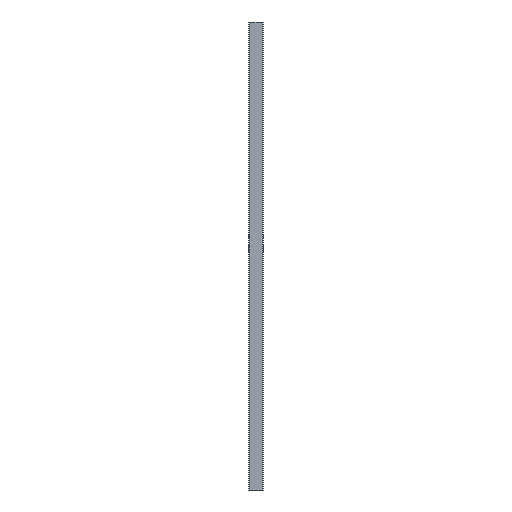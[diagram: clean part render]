
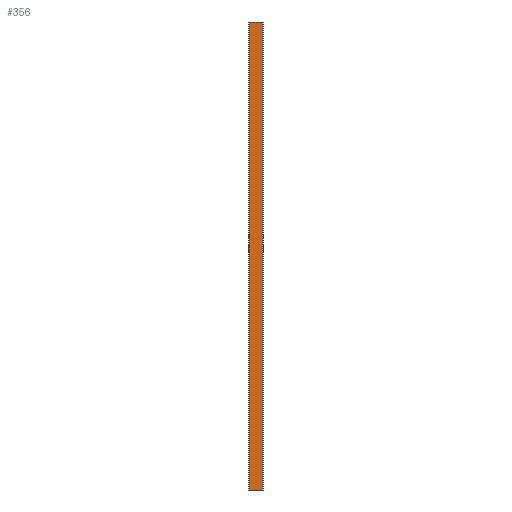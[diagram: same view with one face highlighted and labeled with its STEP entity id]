
A CAD part, left-side view. The second image highlights one B-rep face of the part: STEP entity #356.
In plain terms, the highlighted planar face has unit normal (-1, 0, 0).
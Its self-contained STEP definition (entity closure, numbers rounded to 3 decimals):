
#2 = DIRECTION ( 'NONE',  ( 0., 0., -1. ) ) ;
#7 = LINE ( 'NONE', #418, #332 ) ;
#10 = ORIENTED_EDGE ( 'NONE', *, *, #277, .F. ) ;
#51 = CARTESIAN_POINT ( 'NONE',  ( -9., 19.5, -500. ) ) ;
#78 = VERTEX_POINT ( 'NONE', #666 ) ;
#87 = VECTOR ( 'NONE', #687, 1000. ) ;
#96 = CARTESIAN_POINT ( 'NONE',  ( -9., 22.5, 500. ) ) ;
#138 = EDGE_LOOP ( 'NONE', ( #441, #163, #10, #173 ) ) ;
#163 = ORIENTED_EDGE ( 'NONE', *, *, #614, .T. ) ;
#173 = ORIENTED_EDGE ( 'NONE', *, *, #584, .T. ) ;
#210 = AXIS2_PLACEMENT_3D ( 'NONE', #529, #372, #262 ) ;
#223 = CARTESIAN_POINT ( 'NONE',  ( -9., 19.5, 500. ) ) ;
#257 = VERTEX_POINT ( 'NONE', #480 ) ;
#262 = DIRECTION ( 'NONE',  ( 0., 0., -1. ) ) ;
#277 = EDGE_CURVE ( 'NONE', #678, #257, #639, .T. ) ;
#317 = FACE_OUTER_BOUND ( 'NONE', #138, .T. ) ;
#332 = VECTOR ( 'NONE', #2, 1000. ) ;
#356 = ADVANCED_FACE ( 'NONE', ( #317 ), #588, .F. ) ;
#371 = CARTESIAN_POINT ( 'NONE',  ( -9., 22.5, -500. ) ) ;
#372 = DIRECTION ( 'NONE',  ( 1., 0., 0. ) ) ;
#378 = LINE ( 'NONE', #643, #414 ) ;
#414 = VECTOR ( 'NONE', #467, 1000. ) ;
#418 = CARTESIAN_POINT ( 'NONE',  ( -9., 19.5, 500. ) ) ;
#441 = ORIENTED_EDGE ( 'NONE', *, *, #618, .T. ) ;
#467 = DIRECTION ( 'NONE',  ( 0., 0., 1. ) ) ;
#480 = CARTESIAN_POINT ( 'NONE',  ( -9., -6.5, 500. ) ) ;
#529 = CARTESIAN_POINT ( 'NONE',  ( -9., 22.5, 500. ) ) ;
#576 = DIRECTION ( 'NONE',  ( 0., -1., 0. ) ) ;
#584 = EDGE_CURVE ( 'NONE', #678, #613, #7, .T. ) ;
#588 = PLANE ( 'NONE',  #210 ) ;
#592 = LINE ( 'NONE', #371, #87 ) ;
#613 = VERTEX_POINT ( 'NONE', #51 ) ;
#614 = EDGE_CURVE ( 'NONE', #78, #257, #378, .T. ) ;
#618 = EDGE_CURVE ( 'NONE', #613, #78, #592, .T. ) ;
#639 = LINE ( 'NONE', #96, #677 ) ;
#643 = CARTESIAN_POINT ( 'NONE',  ( -9., -6.5, 500. ) ) ;
#666 = CARTESIAN_POINT ( 'NONE',  ( -9., -6.5, -500. ) ) ;
#677 = VECTOR ( 'NONE', #576, 1000. ) ;
#678 = VERTEX_POINT ( 'NONE', #223 ) ;
#687 = DIRECTION ( 'NONE',  ( 0., -1., 0. ) ) ;
